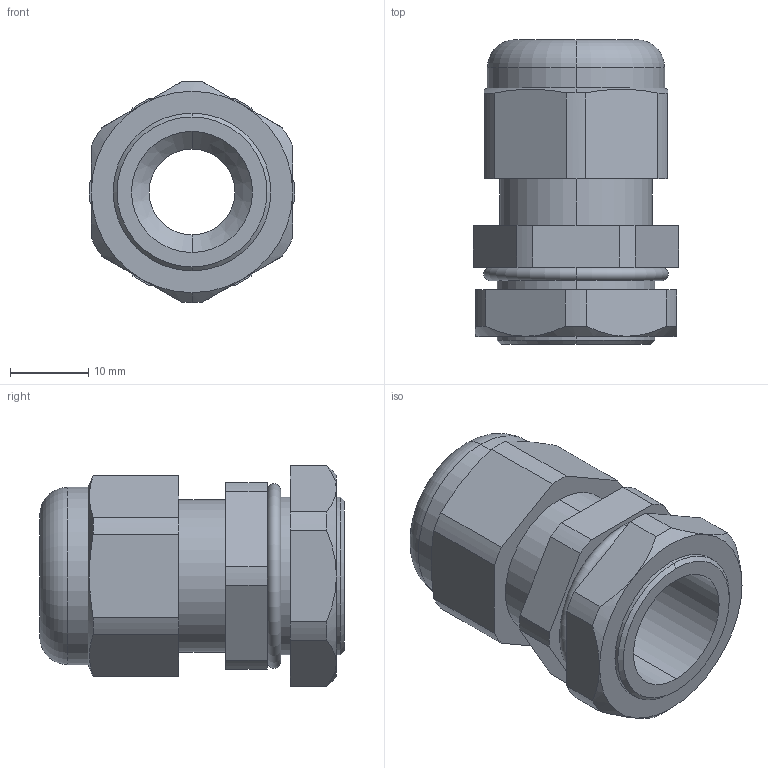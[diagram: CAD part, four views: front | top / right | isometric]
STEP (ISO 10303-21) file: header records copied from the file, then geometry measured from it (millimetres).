
FILE_DESCRIPTION (( 'STEP AP203' ), '1' );
FILE_NAME ('CH-PG13.5.STEP', '2018-02-07T14:38:54', ( '' ), ( '' ), 'SwSTEP 2.0', 'SolidWorks 2012', '' );
FILE_SCHEMA (( 'CONFIG_CONTROL_DESIGN' ));
Length unit declared in the file: millimetre
Products named in the file (1): CH-PG13.5
Bounding box: 26.29 x 39 x 28.34 mm (x, y, z)
Volume: 11072.8 mm3; surface area: 6150.2 mm2
Topology: 1 solids, 1 shells, 78 faces, 189 edges, 118 vertices
Faces by surface type: cylinder 34, plane 25, cone 15, torus 4
Entity records: 2474 total; most frequent: CARTESIAN_POINT 528, DIRECTION 415, ORIENTED_EDGE 378, EDGE_CURVE 189, AXIS2_PLACEMENT_3D 165, VERTEX_POINT 118, CIRCLE 86, VECTOR 85
